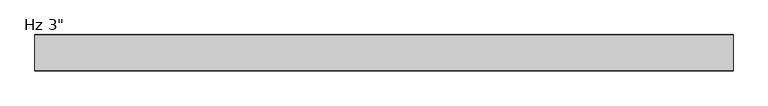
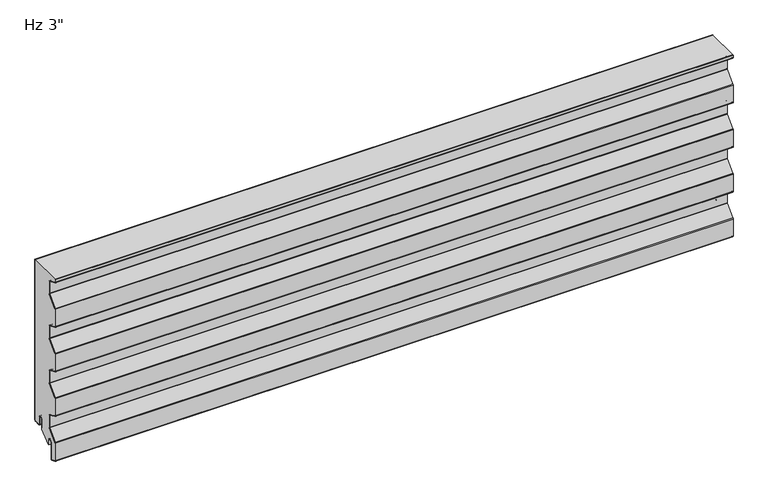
"""IFC4 building model written with IfcOpenShell, lengths in millimetres: plate geometry."""

import ifcopenshell
import ifcopenshell.guid

model = None  # the IFC model being written
_history = None  # IfcOwnerHistory: only IFC2X3 demands one
_inside = {}  # id of a spatial element -> (the spatial element, [elements in it])
_under = {}  # id of a project, library or spatial element -> (it, [spatial elements below it])
_declared = {}  # id of a project -> (the project, [libraries it declares])
_typed = {}  # id of a type object -> (the type object, [elements of that type])
_made_of = {}  # id of a material, layer set ... -> (it, [elements and type objects made of it])


def new_model(schema):
    """Start an empty IFC model of exactly this schema.

    Asked for "IFC4X3", IfcOpenShell would pick the latest addendum, in which some entities
    have other attributes; the version numbers below select the first issue.
    IFC2X3 requires an IfcOwnerHistory on every rooted entity: one is made here for all.
    """
    global model, _history
    if schema == "IFC4X3":
        model = ifcopenshell.file(schema_version=(4, 3, 0, 0))
    else:
        model = ifcopenshell.file(schema=schema)
    _inside.clear()
    _under.clear()
    _declared.clear()
    _typed.clear()
    _made_of.clear()
    _history = None
    if model.schema == "IFC2X3":
        org = make("IfcOrganization", Name="unknown")
        user = make(
            "IfcPersonAndOrganization",
            ThePerson=make("IfcPerson", FamilyName="unknown"),
            TheOrganization=org,
        )
        app = make(
            "IfcApplication",
            ApplicationDeveloper=org,
            Version="unknown",
            ApplicationFullName="unknown",
            ApplicationIdentifier="unknown",
        )
        _history = make(
            "IfcOwnerHistory",
            OwningUser=user,
            OwningApplication=app,
            ChangeAction="ADDED",
            CreationDate=0,
        )
    return model


def make(cls, **values):
    """One entity of the class cls with the attributes given. An attribute that is None is left unset."""
    return model.create_entity(
        cls, **{name: value for name, value in values.items() if value is not None}
    )


def rooted(cls, **values):
    """An entity with a GlobalId (a new one), such as an element, a storey or a relation."""
    return make(cls, GlobalId=ifcopenshell.guid.new(), OwnerHistory=_history, **values)


def si_unit(unit_type, name, prefix=None):
    """IfcSIUnit, for example si_unit("LENGTHUNIT", "METRE", prefix="MILLI")."""
    return make("IfcSIUnit", UnitType=unit_type, Prefix=prefix, Name=name)


def assignment(units):
    """IfcUnitAssignment: the units of a project."""
    return None if units is None else make("IfcUnitAssignment", Units=units)


def point(xyz):
    """IfcCartesianPoint."""
    return None if xyz is None else make("IfcCartesianPoint", Coordinates=xyz)


def direction(xyz):
    """IfcDirection."""
    return None if xyz is None else make("IfcDirection", DirectionRatios=xyz)


def frame(location, z_axis=None, x_axis=None):
    """IfcAxis2Placement3D, a coordinate frame: its origin and axes. An axis left out is left unset."""
    return make(
        "IfcAxis2Placement3D",
        Location=point(location),
        Axis=direction(z_axis),
        RefDirection=direction(x_axis),
    )


def frame_2d(location, x_axis=None):
    """IfcAxis2Placement2D, a coordinate frame in the plane: its origin and x axis."""
    return make(
        "IfcAxis2Placement2D", Location=point(location), RefDirection=direction(x_axis)
    )


def origin():
    """The frame at (0, 0, 0) with its axes left unset."""
    return frame((0.0, 0.0, 0.0))


def place(relative_to, where):
    """IfcLocalPlacement: puts the frame where relative to a parent placement (None: the world)."""
    return make(
        "IfcLocalPlacement", PlacementRelTo=relative_to, RelativePlacement=where
    )


def context(
    kind, dimensions, precision=None, world=None, true_north=None, identifier=None
):
    """IfcGeometricRepresentationContext, for example the 3D "Model" context."""
    return make(
        "IfcGeometricRepresentationContext",
        ContextIdentifier=identifier,
        ContextType=kind,
        CoordinateSpaceDimension=dimensions,
        Precision=precision,
        WorldCoordinateSystem=world,
        TrueNorth=true_north,
    )


def project(units=None, contexts=None):
    """IfcProject with its units and contexts."""
    return rooted(
        "IfcProject",
        Name="project",
        RepresentationContexts=contexts,
        UnitsInContext=assignment(units),
    )


def spatial(cls, under=None, at=None, **own):
    """A site, building, storey or space (cls), placed at a placement, below another one or the project."""
    s = rooted(cls, ObjectPlacement=at, **own)
    if under is not None:
        _under.setdefault(under.id(), (under, []))[1].append(s)
    return s


def polyline(points):
    """IfcPolyline through the points."""
    return make("IfcPolyline", Points=[point(p) for p in points])


def circle_curve(where, radius):
    """IfcCircle in the frame where."""
    return make("IfcCircle", Position=where, Radius=radius)


def trimmed(basis, trim1, trim2, sense, master):
    """IfcTrimmedCurve: the piece of a basis curve between two trims."""
    return make(
        "IfcTrimmedCurve",
        BasisCurve=basis,
        Trim1=trim1,
        Trim2=trim2,
        SenseAgreement=sense,
        MasterRepresentation=master,
    )


def segment(curve, same_sense, transition):
    """IfcCompositeCurveSegment."""
    return make(
        "IfcCompositeCurveSegment",
        Transition=transition,
        SameSense=same_sense,
        ParentCurve=curve,
    )


def composite_curve(segments, self_intersect=None):
    """IfcCompositeCurve: segments joined end to end."""
    return make("IfcCompositeCurve", Segments=segments, SelfIntersect=self_intersect)


def outline(outer, holes=None, kind="AREA"):
    """IfcArbitraryClosedProfileDef: a profile drawn as a closed curve; with holes, ...WithVoids."""
    if holes is None:
        return make("IfcArbitraryClosedProfileDef", ProfileType=kind, OuterCurve=outer)
    return make(
        "IfcArbitraryProfileDefWithVoids",
        ProfileType=kind,
        OuterCurve=outer,
        InnerCurves=holes,
    )


def extrude(swept, where, along, depth):
    """IfcExtrudedAreaSolid: the profile swept, set in the frame where, extruded along a direction by depth."""
    return make(
        "IfcExtrudedAreaSolid",
        SweptArea=swept,
        Position=where,
        ExtrudedDirection=direction(along),
        Depth=depth,
    )


def shape(context_of_items, identifier, shape_type, items):
    """IfcShapeRepresentation: the items that make up one representation, for example the "Body"."""
    return make(
        "IfcShapeRepresentation",
        ContextOfItems=context_of_items,
        RepresentationIdentifier=identifier,
        RepresentationType=shape_type,
        Items=items,
    )


def source(mapping_origin, context_of_items, identifier, shape_type, items):
    """IfcRepresentationMap: a shape defined once, which mapped items show again and again."""
    return make(
        "IfcRepresentationMap",
        MappingOrigin=mapping_origin,
        MappedRepresentation=shape(context_of_items, identifier, shape_type, items),
    )


def transform(
    local_origin,
    x_axis=None,
    y_axis=None,
    z_axis=None,
    scale=None,
    scale2=None,
    scale3=None,
    uniform=True,
):
    """IfcCartesianTransformationOperator3D, or its non-uniform kind. x_axis, y_axis, z_axis: its Axis1, 2, 3."""
    if uniform:
        return make(
            "IfcCartesianTransformationOperator3D",
            Axis1=direction(x_axis),
            Axis2=direction(y_axis),
            LocalOrigin=point(local_origin),
            Scale=scale,
            Axis3=direction(z_axis),
        )
    return make(
        "IfcCartesianTransformationOperator3DnonUniform",
        Axis1=direction(x_axis),
        Axis2=direction(y_axis),
        LocalOrigin=point(local_origin),
        Scale=scale,
        Axis3=direction(z_axis),
        Scale2=scale2,
        Scale3=scale3,
    )


def mapped(mapping_source, mapping_target):
    """IfcMappedItem: shows the shape of a source again, moved by a transform."""
    return make(
        "IfcMappedItem", MappingSource=mapping_source, MappingTarget=mapping_target
    )


def made_of(thing, what):
    """Note that an element or type object is made of a material, layer set ...; save() writes the relation."""
    if what is not None:
        _made_of.setdefault(what.id(), (what, []))[1].append(thing)
    return thing


def element(
    cls,
    number,
    at=None,
    inside=None,
    cuts=None,
    type_object=None,
    material=None,
    context=None,
    identifier="Body",
    shape_type=None,
    held_by="IfcProductDefinitionShape",
    body=None,
    shapes=None,
    **own,
):
    """One element of the class cls, such as IfcWall. Its Tag is "e" and its number.

    at: its placement. inside: the storey or other place that contains it. cuts: it is an
    opening in that element (IfcRelVoidsElement). A single representation is given by context,
    identifier, shape_type and body (its items); several are given by shapes. held_by: the class
    of the entity that holds the representations. save() writes the other relations.
    """
    e = rooted(cls, Tag="e%d" % number, ObjectPlacement=at, **own)
    if body is not None:
        shapes = [shape(context, identifier, shape_type, body)]
    if shapes is not None:
        e.Representation = make(held_by, Representations=shapes)
    if inside is not None:
        _inside.setdefault(inside.id(), (inside, []))[1].append(e)
    if cuts is not None:
        rooted(
            "IfcRelVoidsElement", RelatingBuildingElement=cuts, RelatedOpeningElement=e
        )
    if type_object is not None:
        _typed.setdefault(type_object.id(), (type_object, []))[1].append(e)
    return made_of(e, material)


def aggregate(whole, parts):
    """IfcRelAggregates: a whole, such as a stair, and the parts it consists of."""
    return rooted("IfcRelAggregates", RelatingObject=whole, RelatedObjects=parts)


def save(model, path):
    """Write the relations noted so far, then the file.

    IfcRelAggregates (storeys below a building ...), IfcRelContainedInSpatialStructure (elements
    in a storey), IfcRelDefinesByType, IfcRelAssociatesMaterial and IfcRelDeclares: one each for
    every whole, place, type object, material and project.
    """
    for whole, parts in _under.values():
        aggregate(whole, parts)
    for where, things in _inside.values():
        rooted(
            "IfcRelContainedInSpatialStructure",
            RelatedElements=things,
            RelatingStructure=where,
        )
    for kind, things in _typed.values():
        rooted("IfcRelDefinesByType", RelatedObjects=things, RelatingType=kind)
    for what, things in _made_of.values():
        rooted("IfcRelAssociatesMaterial", RelatedObjects=things, RelatingMaterial=what)
    for by, libraries in _declared.values():
        rooted("IfcRelDeclares", RelatingContext=by, RelatedDefinitions=libraries)
    model.write(path)


def plate_71929f34(model_context):
    return source(origin(), model_context, "Body", "SweptSolid", [
        extrude(outline(composite_curve([segment(polyline([(-26.4011912, 19.05), (-26.4011912, -3.1976612), (-49.233822, -23.01875), (-51.3886912, -23.01875), (-51.3886912, -11.90625)]), True, "CONTINUOUS"), segment(trimmed(circle_curve(frame_2d((-56.3574412, -11.90625)), 4.96875), [point((-51.3886912, -11.90625))], [point((-61.3261912, -11.90625))], True, "CARTESIAN"), True, "CONTINUOUS"), segment(polyline([(-61.3261912, -11.90625), (-61.3261912, -48.8194049)]), True, "CONTINUOUS"), segment(trimmed(circle_curve(frame_2d((-62.7074412, -48.8194049)), 1.38125), [point((-61.3261912, -48.8194049))], [point((-63.2666208, -50.0824052))], False, "CARTESIAN"), True, "CONTINUOUS"), segment(polyline([(-63.2666208, -50.0824052), (-74.3779296, -45.1629946)]), True, "CONTINUOUS"), segment(trimmed(circle_curve(frame_2d((-73.81875, -43.8999943)), 1.38125), [point((-74.3779296, -45.1629946))], [point((-75.2, -43.8999943))], False, "CARTESIAN"), True, "CONTINUOUS"), segment(polyline([(-75.2, -43.8999943), (-75.2, -5.0536946)]), True, "CONTINUOUS"), segment(trimmed(circle_curve(frame_2d((-73.1012, -5.0536946)), 2.0988), [point((-75.2, -5.0536946))], [point((-74.6092077, -3.5939431))], False, "CARTESIAN"), True, "CONTINUOUS"), segment(polyline([(-74.6092077, -3.5939431), (-54.4145567, 17.2682996)]), True, "CONTINUOUS"), segment(trimmed(circle_curve(frame_2d((-56.2737, 19.0679503)), 2.5875), [point((-54.4145567, 17.2682996))], [point((-53.6862, 19.0679503))], True, "CARTESIAN"), True, "CONTINUOUS"), segment(polyline([(-53.6862, 19.0679503), (-53.6862, 45.5917981)]), True, "CONTINUOUS"), segment(trimmed(circle_curve(frame_2d((-56.2737, 45.5917981)), 2.5875), [point((-53.6862, 45.5917981))], [point((-55.2261871, 47.9577806))], True, "CARTESIAN"), True, "CONTINUOUS"), segment(polyline([(-55.2261871, 47.9577806), (-74.3779296, 56.4370054)]), True, "CONTINUOUS"), segment(trimmed(circle_curve(frame_2d((-73.81875, 57.7000057)), 1.38125), [point((-74.3779296, 56.4370054))], [point((-75.2, 57.7000057))], False, "CARTESIAN"), True, "CONTINUOUS"), segment(polyline([(-75.2, 57.7000057), (-75.2, 96.8367131)]), True, "CONTINUOUS"), segment(trimmed(circle_curve(frame_2d((-73.81875, 96.8367131)), 1.38125), [point((-75.2, 96.8367131))], [point((-74.8111912, 97.7973962))], False, "CARTESIAN"), True, "CONTINUOUS"), segment(polyline([(-74.8111912, 97.7973962), (-54.4145567, 118.8682996)]), True, "CONTINUOUS"), segment(trimmed(circle_curve(frame_2d((-56.2737, 120.6679503)), 2.5875), [point((-54.4145567, 118.8682996))], [point((-53.6862, 120.6679503))], True, "CARTESIAN"), True, "CONTINUOUS"), segment(polyline([(-53.6862, 120.6679503), (-53.6862, 147.1917981)]), True, "CONTINUOUS"), segment(trimmed(circle_curve(frame_2d((-56.2737, 147.1917981)), 2.5875), [point((-53.6862, 147.1917981))], [point((-55.2261871, 149.5577806))], True, "CARTESIAN"), True, "CONTINUOUS"), segment(polyline([(-55.2261871, 149.5577806), (-74.3779296, 158.0370054)]), True, "CONTINUOUS"), segment(trimmed(circle_curve(frame_2d((-73.81875, 159.3000057)), 1.38125), [point((-74.3779296, 158.0370054))], [point((-75.2, 159.3000057))], False, "CARTESIAN"), True, "CONTINUOUS"), segment(polyline([(-75.2, 159.3000057), (-75.2, 198.4367131)]), True, "CONTINUOUS"), segment(trimmed(circle_curve(frame_2d((-73.81875, 198.4367131)), 1.38125), [point((-75.2, 198.4367131))], [point((-74.8111912, 199.3973962))], False, "CARTESIAN"), True, "CONTINUOUS"), segment(polyline([(-74.8111912, 199.3973962), (-54.4145567, 220.4682996)]), True, "CONTINUOUS"), segment(trimmed(circle_curve(frame_2d((-56.2737, 222.2679503)), 2.5875), [point((-54.4145567, 220.4682996))], [point((-53.6862, 222.2679503))], True, "CARTESIAN"), True, "CONTINUOUS"), segment(polyline([(-53.6862, 222.2679503), (-53.6862, 248.7917981)]), True, "CONTINUOUS"), segment(trimmed(circle_curve(frame_2d((-56.2737, 248.7917981)), 2.5875), [point((-53.6862, 248.7917981))], [point((-55.2261871, 251.1577806))], True, "CARTESIAN"), True, "CONTINUOUS"), segment(polyline([(-55.2261871, 251.1577806), (-74.3779296, 259.6370054)]), True, "CONTINUOUS"), segment(trimmed(circle_curve(frame_2d((-73.81875, 260.9000057)), 1.38125), [point((-74.3779296, 259.6370054))], [point((-75.2, 260.9000057))], False, "CARTESIAN"), True, "CONTINUOUS"), segment(polyline([(-75.2, 260.9000057), (-75.2, 300.0367131)]), True, "CONTINUOUS"), segment(trimmed(circle_curve(frame_2d((-73.81875, 300.0367131)), 1.38125), [point((-75.2, 300.0367131))], [point((-74.8111912, 300.9973962))], False, "CARTESIAN"), True, "CONTINUOUS"), segment(polyline([(-74.8111912, 300.9973962), (-54.4145567, 322.0682996)]), True, "CONTINUOUS"), segment(trimmed(circle_curve(frame_2d((-56.2737, 323.8679503)), 2.5875), [point((-54.4145567, 322.0682996))], [point((-53.6862, 323.8679503))], True, "CARTESIAN"), True, "CONTINUOUS"), segment(polyline([(-53.6862, 323.8679503), (-53.6862, 350.3917981)]), True, "CONTINUOUS"), segment(trimmed(circle_curve(frame_2d((-56.2737, 350.3917981)), 2.5875), [point((-53.6862, 350.3917981))], [point((-55.2261871, 352.7577806))], True, "CARTESIAN"), True, "CONTINUOUS"), segment(polyline([(-55.2261871, 352.7577806), (-74.3779296, 361.2370054)]), True, "CONTINUOUS"), segment(trimmed(circle_curve(frame_2d((-73.81875, 362.5000057)), 1.38125), [point((-74.3779296, 361.2370054))], [point((-75.2, 362.5000057))], False, "CARTESIAN"), True, "CONTINUOUS"), segment(polyline([(-75.2, 362.5000057), (-75.2, 368.0), (-1.0011912, 368.0), (-1.0011912, 3.175)]), True, "CONTINUOUS"), segment(trimmed(circle_curve(frame_2d((-2.3824412, 3.175)), 1.38125), [point((-1.0011912, 3.175))], [point((-2.3824412, 1.79375))], False, "CARTESIAN"), True, "CONTINUOUS"), segment(polyline([(-2.3824412, 1.79375), (-15.0824412, 1.79375)]), True, "CONTINUOUS"), segment(trimmed(circle_curve(frame_2d((-15.0824412, 3.175)), 1.38125), [point((-15.0824412, 1.79375))], [point((-16.4636912, 3.175))], False, "CARTESIAN"), True, "CONTINUOUS"), segment(polyline([(-16.4636912, 3.175), (-16.4636912, 19.05)]), True, "CONTINUOUS"), segment(trimmed(circle_curve(frame_2d((-21.4324412, 19.05)), 4.96875), [point((-16.4636912, 19.05))], [point((-26.4011912, 19.05))], True, "CARTESIAN"), True, "CONTINUOUS")], self_intersect=False)), frame((-730.0, 0.0, 0.0), z_axis=(1.0, 0.0, 0.0), x_axis=(0.0, 1.0, 0.0)), (0.0, 0.0, 1.0), 1460.0),
        extrude(outline(composite_curve([segment(polyline([(-25.4, 0.79375), (-26.4, 0.79375), (-26.4, 19.05)]), True, "CONTINUOUS"), segment(trimmed(circle_curve(frame_2d((-21.43125, 19.05)), 4.96875), [point((-26.4, 19.05))], [point((-16.4625, 19.05))], False, "CARTESIAN"), True, "CONTINUOUS"), segment(polyline([(-16.4625, 19.05), (-16.4625, 3.175)]), True, "CONTINUOUS"), segment(trimmed(circle_curve(frame_2d((-15.08125, 3.175)), 1.38125), [point((-16.4625, 3.175))], [point((-15.08125, 1.79375))], True, "CARTESIAN"), True, "CONTINUOUS"), segment(polyline([(-15.08125, 1.79375), (-2.38125, 1.79375)]), True, "CONTINUOUS"), segment(trimmed(circle_curve(frame_2d((-2.38125, 3.175)), 1.38125), [point((-2.38125, 1.79375))], [point((-1.0, 3.175))], True, "CARTESIAN"), True, "CONTINUOUS"), segment(polyline([(-1.0, 3.175), (-1.0, 368.0), (0.0, 368.0), (0.0, 3.175)]), True, "CONTINUOUS"), segment(trimmed(circle_curve(frame_2d((-2.38125, 3.175)), 2.38125), [point((0.0, 3.175))], [point((-2.38125, 0.79375))], False, "CARTESIAN"), True, "CONTINUOUS"), segment(polyline([(-2.38125, 0.79375), (-15.08125, 0.79375)]), True, "CONTINUOUS"), segment(trimmed(circle_curve(frame_2d((-15.08125, 3.175)), 2.38125), [point((-15.08125, 0.79375))], [point((-17.4625, 3.175))], False, "CARTESIAN"), True, "CONTINUOUS"), segment(polyline([(-17.4625, 3.175), (-17.4625, 19.05)]), True, "CONTINUOUS"), segment(trimmed(circle_curve(frame_2d((-21.43125, 19.05)), 3.96875), [point((-17.4625, 19.05))], [point((-25.4, 19.05))], True, "CARTESIAN"), True, "CONTINUOUS"), segment(polyline([(-25.4, 19.05), (-25.4, 0.79375)]), True, "CONTINUOUS")], self_intersect=False)), frame((-730.0, 0.0, 0.0), z_axis=(1.0, 0.0, 0.0), x_axis=(0.0, 1.0, 0.0)), (0.0, 0.0, 1.0), 1460.0),
        extrude(outline(composite_curve([segment(polyline([(-60.3261912, -11.90625), (-60.3261912, -48.8194049)]), True, "CONTINUOUS"), segment(trimmed(circle_curve(frame_2d((-62.7074412, -48.8194049)), 2.38125), [point((-60.3261912, -48.8194049))], [point((-63.6714567, -50.9967946))], False, "CARTESIAN"), True, "CONTINUOUS"), segment(polyline([(-63.6714567, -50.9967946), (-74.7827655, -46.0773839)]), True, "CONTINUOUS"), segment(trimmed(circle_curve(frame_2d((-73.81875, -43.8999943)), 2.38125), [point((-74.7827655, -46.0773839))], [point((-76.2, -43.8999943))], False, "CARTESIAN"), True, "CONTINUOUS"), segment(polyline([(-76.2, -43.8999943), (-76.2, -5.0536946)]), True, "CONTINUOUS"), segment(trimmed(circle_curve(frame_2d((-73.1012, -5.0536946)), 3.0988), [point((-76.2, -5.0536946))], [point((-75.3277172, -2.8984259))], False, "CARTESIAN"), True, "CONTINUOUS"), segment(polyline([(-75.3277172, -2.8984259), (-55.1330662, 17.9638168)]), True, "CONTINUOUS"), segment(trimmed(circle_curve(frame_2d((-56.2737, 19.0679503)), 1.5875), [point((-55.1330662, 17.9638168))], [point((-54.6862, 19.0679503))], True, "CARTESIAN"), True, "CONTINUOUS"), segment(polyline([(-54.6862, 19.0679503), (-54.6862, 45.5917981)]), True, "CONTINUOUS"), segment(trimmed(circle_curve(frame_2d((-56.2737, 45.5917981)), 1.5875), [point((-54.6862, 45.5917981))], [point((-55.631023, 47.0433912))], True, "CARTESIAN"), True, "CONTINUOUS"), segment(polyline([(-55.631023, 47.0433912), (-74.7827655, 55.5226161)]), True, "CONTINUOUS"), segment(trimmed(circle_curve(frame_2d((-73.81875, 57.7000057)), 2.38125), [point((-74.7827655, 55.5226161))], [point((-76.2, 57.7000057))], False, "CARTESIAN"), True, "CONTINUOUS"), segment(polyline([(-76.2, 57.7000057), (-76.2, 96.8367131)]), True, "CONTINUOUS"), segment(trimmed(circle_curve(frame_2d((-73.81875, 96.8367131)), 2.38125), [point((-76.2, 96.8367131))], [point((-75.5297007, 98.4929134))], False, "CARTESIAN"), True, "CONTINUOUS"), segment(polyline([(-75.5297007, 98.4929134), (-55.1330662, 119.5638168)]), True, "CONTINUOUS"), segment(trimmed(circle_curve(frame_2d((-56.2737, 120.6679503)), 1.5875), [point((-55.1330662, 119.5638168))], [point((-54.6862, 120.6679503))], True, "CARTESIAN"), True, "CONTINUOUS"), segment(polyline([(-54.6862, 120.6679503), (-54.6862, 147.1917981)]), True, "CONTINUOUS"), segment(trimmed(circle_curve(frame_2d((-56.2737, 147.1917981)), 1.5875), [point((-54.6862, 147.1917981))], [point((-55.631023, 148.6433912))], True, "CARTESIAN"), True, "CONTINUOUS"), segment(polyline([(-55.631023, 148.6433912), (-74.7827655, 157.1226161)]), True, "CONTINUOUS"), segment(trimmed(circle_curve(frame_2d((-73.81875, 159.3000057)), 2.38125), [point((-74.7827655, 157.1226161))], [point((-76.2, 159.3000057))], False, "CARTESIAN"), True, "CONTINUOUS"), segment(polyline([(-76.2, 159.3000057), (-76.2, 198.4367131)]), True, "CONTINUOUS"), segment(trimmed(circle_curve(frame_2d((-73.81875, 198.4367131)), 2.38125), [point((-76.2, 198.4367131))], [point((-75.5297007, 200.0929134))], False, "CARTESIAN"), True, "CONTINUOUS"), segment(polyline([(-75.5297007, 200.0929134), (-55.1330662, 221.1638168)]), True, "CONTINUOUS"), segment(trimmed(circle_curve(frame_2d((-56.2737, 222.2679503)), 1.5875), [point((-55.1330662, 221.1638168))], [point((-54.6862, 222.2679503))], True, "CARTESIAN"), True, "CONTINUOUS"), segment(polyline([(-54.6862, 222.2679503), (-54.6862, 248.7917981)]), True, "CONTINUOUS"), segment(trimmed(circle_curve(frame_2d((-56.2737, 248.7917981)), 1.5875), [point((-54.6862, 248.7917981))], [point((-55.631023, 250.2433912))], True, "CARTESIAN"), True, "CONTINUOUS"), segment(polyline([(-55.631023, 250.2433912), (-74.7827655, 258.7226161)]), True, "CONTINUOUS"), segment(trimmed(circle_curve(frame_2d((-73.81875, 260.9000057)), 2.38125), [point((-74.7827655, 258.7226161))], [point((-76.2, 260.9000057))], False, "CARTESIAN"), True, "CONTINUOUS"), segment(polyline([(-76.2, 260.9000057), (-76.2, 300.0367131)]), True, "CONTINUOUS"), segment(trimmed(circle_curve(frame_2d((-73.81875, 300.0367131)), 2.38125), [point((-76.2, 300.0367131))], [point((-75.5297007, 301.6929134))], False, "CARTESIAN"), True, "CONTINUOUS"), segment(polyline([(-75.5297007, 301.6929134), (-55.1330662, 322.7638168)]), True, "CONTINUOUS"), segment(trimmed(circle_curve(frame_2d((-56.2737, 323.8679503)), 1.5875), [point((-55.1330662, 322.7638168))], [point((-54.6862, 323.8679503))], True, "CARTESIAN"), True, "CONTINUOUS"), segment(polyline([(-54.6862, 323.8679503), (-54.6862, 350.3917981)]), True, "CONTINUOUS"), segment(trimmed(circle_curve(frame_2d((-56.2737, 350.3917981)), 1.5875), [point((-54.6862, 350.3917981))], [point((-55.631023, 351.8433912))], True, "CARTESIAN"), True, "CONTINUOUS"), segment(polyline([(-55.631023, 351.8433912), (-74.7827655, 360.3226161)]), True, "CONTINUOUS"), segment(trimmed(circle_curve(frame_2d((-73.81875, 362.5000057)), 2.38125), [point((-74.7827655, 360.3226161))], [point((-76.2, 362.5000057))], False, "CARTESIAN"), True, "CONTINUOUS"), segment(polyline([(-76.2, 362.5000057), (-76.2, 368.0), (-75.2, 368.0), (-75.2, 362.5000057)]), True, "CONTINUOUS"), segment(trimmed(circle_curve(frame_2d((-73.81875, 362.5000057)), 1.38125), [point((-75.2, 362.5000057))], [point((-74.3779296, 361.2370054))], True, "CARTESIAN"), True, "CONTINUOUS"), segment(polyline([(-74.3779296, 361.2370054), (-55.2261871, 352.7577806)]), True, "CONTINUOUS"), segment(trimmed(circle_curve(frame_2d((-56.2737, 350.3917981)), 2.5875), [point((-55.2261871, 352.7577806))], [point((-53.6862, 350.3917981))], False, "CARTESIAN"), True, "CONTINUOUS"), segment(polyline([(-53.6862, 350.3917981), (-53.6862, 323.8679503)]), True, "CONTINUOUS"), segment(trimmed(circle_curve(frame_2d((-56.2737, 323.8679503)), 2.5875), [point((-53.6862, 323.8679503))], [point((-54.4145567, 322.0682996))], False, "CARTESIAN"), True, "CONTINUOUS"), segment(polyline([(-54.4145567, 322.0682996), (-74.8111912, 300.9973962)]), True, "CONTINUOUS"), segment(trimmed(circle_curve(frame_2d((-73.81875, 300.0367131)), 1.38125), [point((-74.8111912, 300.9973962))], [point((-75.2, 300.0367131))], True, "CARTESIAN"), True, "CONTINUOUS"), segment(polyline([(-75.2, 300.0367131), (-75.2, 260.9000057)]), True, "CONTINUOUS"), segment(trimmed(circle_curve(frame_2d((-73.81875, 260.9000057)), 1.38125), [point((-75.2, 260.9000057))], [point((-74.3779296, 259.6370054))], True, "CARTESIAN"), True, "CONTINUOUS"), segment(polyline([(-74.3779296, 259.6370054), (-55.2261871, 251.1577806)]), True, "CONTINUOUS"), segment(trimmed(circle_curve(frame_2d((-56.2737, 248.7917981)), 2.5875), [point((-55.2261871, 251.1577806))], [point((-53.6862, 248.7917981))], False, "CARTESIAN"), True, "CONTINUOUS"), segment(polyline([(-53.6862, 248.7917981), (-53.6862, 222.2679503)]), True, "CONTINUOUS"), segment(trimmed(circle_curve(frame_2d((-56.2737, 222.2679503)), 2.5875), [point((-53.6862, 222.2679503))], [point((-54.4145567, 220.4682996))], False, "CARTESIAN"), True, "CONTINUOUS"), segment(polyline([(-54.4145567, 220.4682996), (-74.8111912, 199.3973962)]), True, "CONTINUOUS"), segment(trimmed(circle_curve(frame_2d((-73.81875, 198.4367131)), 1.38125), [point((-74.8111912, 199.3973962))], [point((-75.2, 198.4367131))], True, "CARTESIAN"), True, "CONTINUOUS"), segment(polyline([(-75.2, 198.4367131), (-75.2, 159.3000057)]), True, "CONTINUOUS"), segment(trimmed(circle_curve(frame_2d((-73.81875, 159.3000057)), 1.38125), [point((-75.2, 159.3000057))], [point((-74.3779296, 158.0370054))], True, "CARTESIAN"), True, "CONTINUOUS"), segment(polyline([(-74.3779296, 158.0370054), (-55.2261871, 149.5577806)]), True, "CONTINUOUS"), segment(trimmed(circle_curve(frame_2d((-56.2737, 147.1917981)), 2.5875), [point((-55.2261871, 149.5577806))], [point((-53.6862, 147.1917981))], False, "CARTESIAN"), True, "CONTINUOUS"), segment(polyline([(-53.6862, 147.1917981), (-53.6862, 120.6679503)]), True, "CONTINUOUS"), segment(trimmed(circle_curve(frame_2d((-56.2737, 120.6679503)), 2.5875), [point((-53.6862, 120.6679503))], [point((-54.4145567, 118.8682996))], False, "CARTESIAN"), True, "CONTINUOUS"), segment(polyline([(-54.4145567, 118.8682996), (-74.8111912, 97.7973962)]), True, "CONTINUOUS"), segment(trimmed(circle_curve(frame_2d((-73.81875, 96.8367131)), 1.38125), [point((-74.8111912, 97.7973962))], [point((-75.2, 96.8367131))], True, "CARTESIAN"), True, "CONTINUOUS"), segment(polyline([(-75.2, 96.8367131), (-75.2, 57.7000057)]), True, "CONTINUOUS"), segment(trimmed(circle_curve(frame_2d((-73.81875, 57.7000057)), 1.38125), [point((-75.2, 57.7000057))], [point((-74.3779296, 56.4370054))], True, "CARTESIAN"), True, "CONTINUOUS"), segment(polyline([(-74.3779296, 56.4370054), (-55.2261871, 47.9577806)]), True, "CONTINUOUS"), segment(trimmed(circle_curve(frame_2d((-56.2737, 45.5917981)), 2.5875), [point((-55.2261871, 47.9577806))], [point((-53.6862, 45.5917981))], False, "CARTESIAN"), True, "CONTINUOUS"), segment(polyline([(-53.6862, 45.5917981), (-53.6862, 19.0679503)]), True, "CONTINUOUS"), segment(trimmed(circle_curve(frame_2d((-56.2737, 19.0679503)), 2.5875), [point((-53.6862, 19.0679503))], [point((-54.4145567, 17.2682996))], False, "CARTESIAN"), True, "CONTINUOUS"), segment(polyline([(-54.4145567, 17.2682996), (-74.6092077, -3.5939431)]), True, "CONTINUOUS"), segment(trimmed(circle_curve(frame_2d((-73.1012, -5.0536946)), 2.0988), [point((-74.6092077, -3.5939431))], [point((-75.2, -5.0536946))], True, "CARTESIAN"), True, "CONTINUOUS"), segment(polyline([(-75.2, -5.0536946), (-75.2, -43.8999943)]), True, "CONTINUOUS"), segment(trimmed(circle_curve(frame_2d((-73.81875, -43.8999943)), 1.38125), [point((-75.2, -43.8999943))], [point((-74.3779296, -45.1629946))], True, "CARTESIAN"), True, "CONTINUOUS"), segment(polyline([(-74.3779296, -45.1629946), (-63.2666208, -50.0824052)]), True, "CONTINUOUS"), segment(trimmed(circle_curve(frame_2d((-62.7074412, -48.8194049)), 1.38125), [point((-63.2666208, -50.0824052))], [point((-61.3261912, -48.8194049))], True, "CARTESIAN"), True, "CONTINUOUS"), segment(polyline([(-61.3261912, -48.8194049), (-61.3261912, -11.90625)]), True, "CONTINUOUS"), segment(trimmed(circle_curve(frame_2d((-56.3574412, -11.90625)), 4.96875), [point((-61.3261912, -11.90625))], [point((-51.3886912, -11.90625))], False, "CARTESIAN"), True, "CONTINUOUS"), segment(polyline([(-51.3886912, -11.90625), (-51.3886912, -23.01875), (-52.3886912, -23.01875), (-52.3886912, -11.90625)]), True, "CONTINUOUS"), segment(trimmed(circle_curve(frame_2d((-56.3574412, -11.90625)), 3.96875), [point((-52.3886912, -11.90625))], [point((-60.3261912, -11.90625))], True, "CARTESIAN"), True, "CONTINUOUS")], self_intersect=False)), frame((-730.0, 0.0, 0.0), z_axis=(1.0, 0.0, 0.0), x_axis=(0.0, 1.0, 0.0)), (0.0, 0.0, 1.0), 1460.0),
    ])


if __name__ == "__main__":
    model = new_model("IFC4")
    model_context = context("Model", 3, world=origin())
    ifc_project = project(units=[si_unit("LENGTHUNIT", "METRE", prefix="MILLI")], contexts=[model_context])
    site = spatial("IfcSite", under=ifc_project)
    building = spatial("IfcBuilding", under=site)
    placement = place(None, origin())
    plate_shape = plate_71929f34(model_context)
    element("IfcPlate", 1, ObjectType="KIP-20-DWR-R19-CP-Hz-S : Hz 3\"", at=placement, inside=building, context=model_context, shape_type="MappedRepresentation", body=[
        mapped(plate_shape, transform((0.0, 0.0, 0.0), x_axis=(1.0, 0.0, 0.0), y_axis=(0.0, 1.0, 0.0), z_axis=(0.0, 0.0, 1.0))),
    ])
    save(model, "model.ifc")
